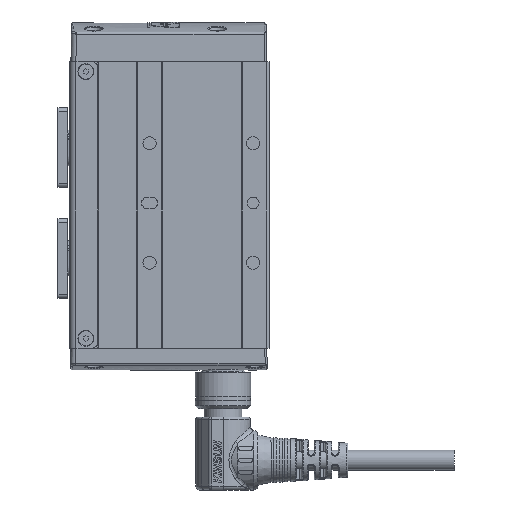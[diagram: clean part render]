
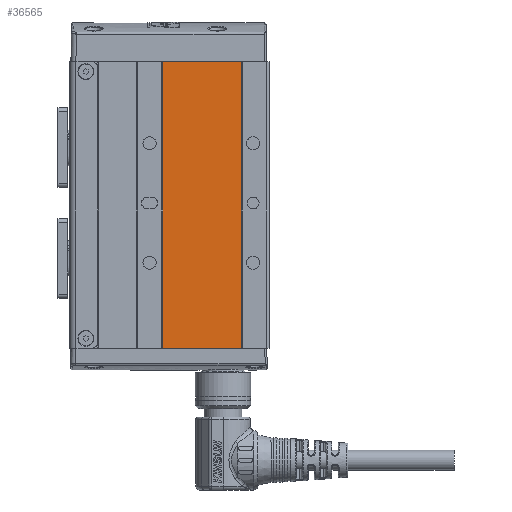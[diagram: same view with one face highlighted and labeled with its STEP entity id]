
A CAD part, left-side view. The second image highlights one B-rep face of the part: STEP entity #36565.
In plain terms, the highlighted planar face has unit normal (-1, 0, 0).
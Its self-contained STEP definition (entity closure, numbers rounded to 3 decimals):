
#4476=LINE('',#65111,#7112);
#4491=LINE('',#65150,#7127);
#4511=LINE('',#65196,#7147);
#4512=LINE('',#65198,#7148);
#7112=VECTOR('',#45670,1000.);
#7127=VECTOR('',#45699,1000.);
#7147=VECTOR('',#45733,1000.);
#7148=VECTOR('',#45736,1000.);
#9665=FACE_OUTER_BOUND('',#11718,.T.);
#11718=EDGE_LOOP('',(#27572,#27573,#27574,#27575));
#16412=VERTEX_POINT('',#65108);
#16413=VERTEX_POINT('',#65110);
#16429=VERTEX_POINT('',#65147);
#16430=VERTEX_POINT('',#65149);
#20532=EDGE_CURVE('',#16413,#16412,#4476,.T.);
#20552=EDGE_CURVE('',#16429,#16430,#4491,.T.);
#20577=EDGE_CURVE('',#16429,#16413,#4511,.T.);
#20578=EDGE_CURVE('',#16430,#16412,#4512,.T.);
#27572=ORIENTED_EDGE('',*,*,#20532,.T.);
#27573=ORIENTED_EDGE('',*,*,#20578,.F.);
#27574=ORIENTED_EDGE('',*,*,#20552,.F.);
#27575=ORIENTED_EDGE('',*,*,#20577,.T.);
#35237=PLANE('',#39591);
#36565=ADVANCED_FACE('',(#9665),#35237,.F.);
#39591=AXIS2_PLACEMENT_3D('',#65197,#45734,#45735);
#45670=DIRECTION('',(0.,-1.,0.));
#45699=DIRECTION('',(0.,-1.,0.));
#45733=DIRECTION('',(0.,0.,-1.));
#45734=DIRECTION('center_axis',(1.,0.,0.));
#45735=DIRECTION('ref_axis',(0.,1.,0.));
#45736=DIRECTION('',(0.,0.,-1.));
#65108=CARTESIAN_POINT('',(-15.2,6.997,-36.5));
#65110=CARTESIAN_POINT('',(-15.2,26.65,-36.5));
#65111=CARTESIAN_POINT('',(-15.2,26.65,-36.5));
#65147=CARTESIAN_POINT('',(-15.2,26.65,35.5));
#65149=CARTESIAN_POINT('',(-15.2,6.997,35.5));
#65150=CARTESIAN_POINT('',(-15.2,26.65,35.5));
#65196=CARTESIAN_POINT('',(-15.2,26.65,35.5));
#65197=CARTESIAN_POINT('Origin',(-15.2,26.65,35.5));
#65198=CARTESIAN_POINT('',(-15.2,6.997,35.5));
